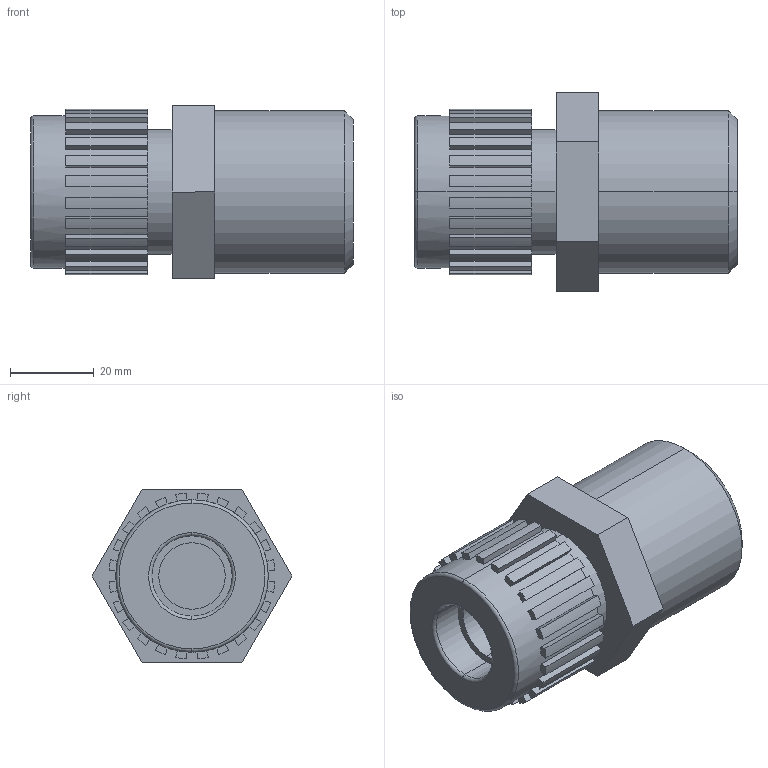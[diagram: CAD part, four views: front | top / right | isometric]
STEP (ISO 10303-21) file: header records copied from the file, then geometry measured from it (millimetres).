
FILE_DESCRIPTION (( 'STEP AP214' ), '1' );
FILE_NAME ('12-s-300.STEP', '2012-12-03T18:23:07', ( '' ), ( '' ), 'SwSTEP 2.0', 'SolidWorks 2012', '' );
FILE_SCHEMA (( 'AUTOMOTIVE_DESIGN' ));
Length unit declared in the file: inch
Products named in the file (1): 12-s-300
Bounding box: 77.02 x 47.66 x 41.27 mm (x, y, z)
Volume: 82526.7 mm3; surface area: 16041 mm2
Topology: 1 solids, 1 shells, 125 faces, 348 edges, 230 vertices
Faces by surface type: plane 85, cylinder 34, torus 4, cone 2
Entity records: 4275 total; most frequent: DIRECTION 726, CARTESIAN_POINT 704, ORIENTED_EDGE 696, EDGE_CURVE 348, AXIS2_PLACEMENT_3D 252, VERTEX_POINT 230, LINE 222, VECTOR 222
